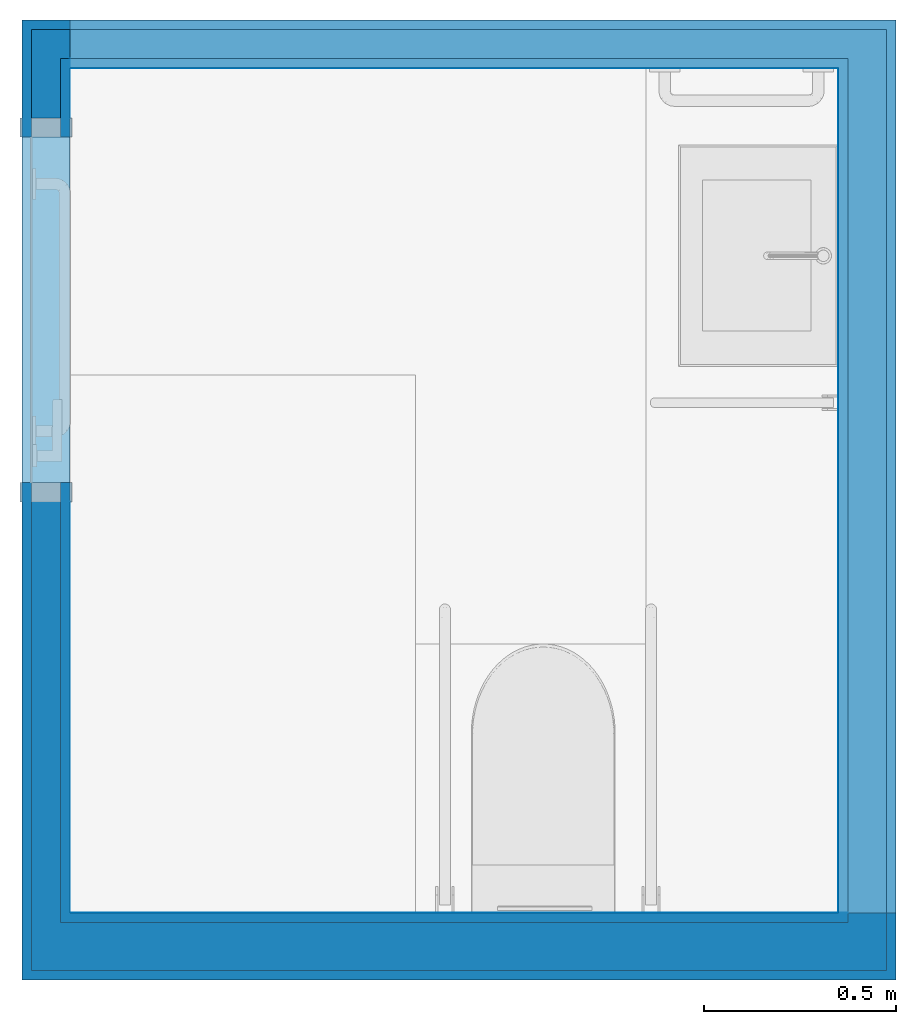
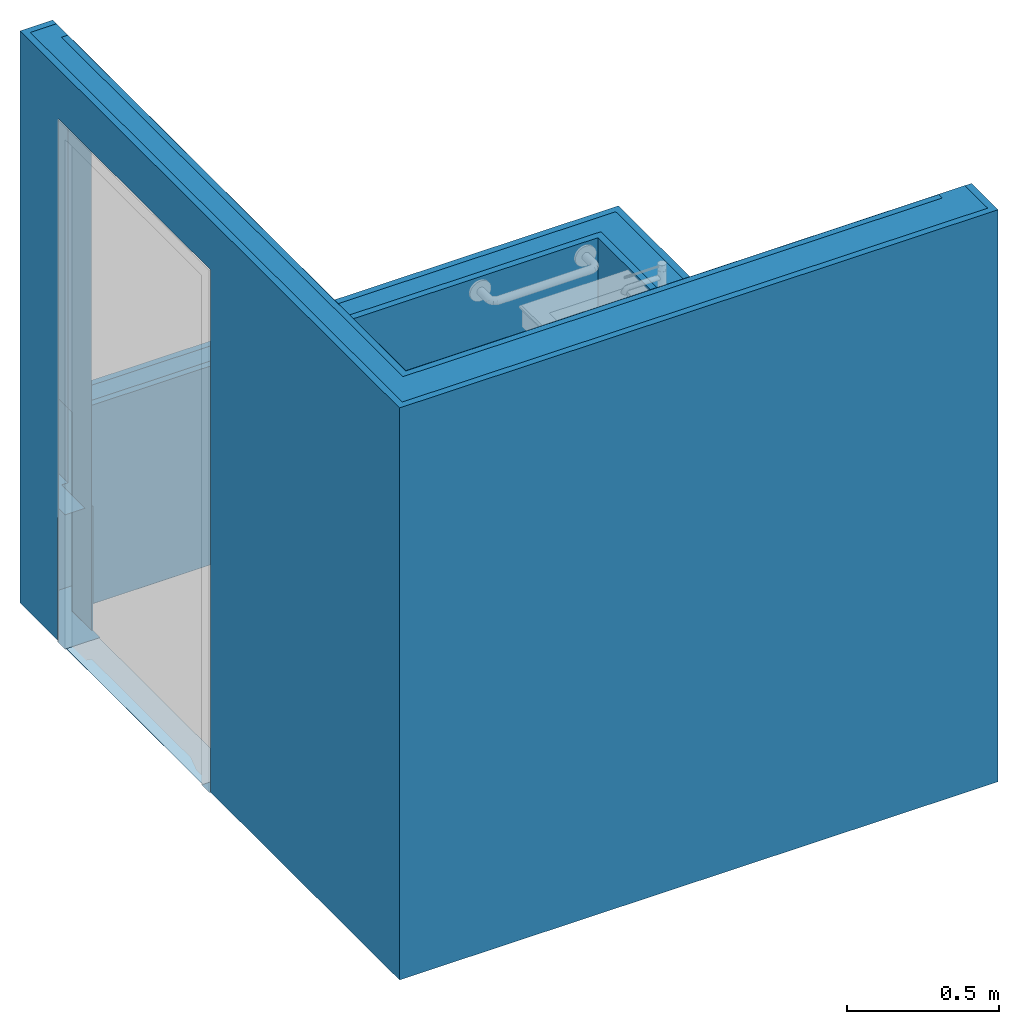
# One storey, part 2 of 4: 5 walls, 1 slab.
"""IFC2X3 building model written with IfcOpenShell, lengths in millimetres."""

from ifc_helpers import new_model, si_unit, frame, origin_with_axes, place, context, subcontext, project, spatial, faceted_brep, material, type_object, element, save


model = new_model("IFC2X3")

# Units and contexts
model_context = context("Model", 3, world=origin_with_axes())
body_context = subcontext(model_context, "Body", "Model", "MODEL_VIEW")
ifc_project = project(units=[si_unit("LENGTHUNIT", "METRE", prefix="MILLI"), si_unit("AREAUNIT", "SQUARE_METRE"), si_unit("VOLUMEUNIT", "CUBIC_METRE")], contexts=[model_context])

# Site, building, storey
site_placement = place(None, origin_with_axes())
site = spatial("IfcSite", under=ifc_project, at=site_placement, Name="Default Site", CompositionType="ELEMENT")
building_placement = place(site_placement, frame((2276.0499999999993, -7.219114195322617e-13, 0.0), z_axis=(0.0, 0.0, 1.0), x_axis=(2.9143354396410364e-16, 1.0, 0.0)))
building = spatial("IfcBuilding", under=site, at=building_placement, Name="Default Building", CompositionType="ELEMENT")
storey_placement = place(building_placement, origin_with_axes())
storey = spatial("IfcBuildingStorey", under=building, at=storey_placement, Name="Default Building Storey", CompositionType="ELEMENT", Elevation=0.0)

# Slab
ifc_material_1 = material(Name="Marble_01_1K")
slab_type = type_object("IfcSlabType", Name="Grupuj#11", PredefinedType="FLOOR")
slab_placement = place(storey_placement, frame((1295.070000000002, 2151.0499999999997, 1.0000000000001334), z_axis=(0.0, 0.0, 1.0), x_axis=(1.0, 0.0, 0.0)))
element("IfcSlab", 1, at=slab_placement, inside=storey, type_object=slab_type, material=ifc_material_1, Name="Podłoga", context=body_context, shape_type="Brep", body=[
    faceted_brep([(900.0000000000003, 125.00000000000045, 0.0), (0.0, 125.00000000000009, 0.0), (0.0, 0.0, 0.0), (279.9300000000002, 0.0, 0.0), (900.0000000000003, 3.6095570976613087e-13, 0.0)], [[[0, 1, 2, 3, 4]]]),
])

# Walls
ifc_material_2 = material(Name="J05_Violet_Prism1")
wall_type_1 = type_object("IfcWallType", Name="Ściany", PredefinedType="NOTDEFINED")
wall_1_placement = place(storey_placement, origin_with_axes())
element("IfcWall", 2, at=wall_1_placement, inside=storey, type_object=wall_type_1, material=ifc_material_2, Name="Ściany", context=body_context, shape_type="Brep", body=[
    faceted_brep([(1295.0700000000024, 2151.0499999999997, 2.1476706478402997e-18), (1295.0700000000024, 2151.05, 0.5091227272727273), (1295.0700000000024, 2151.0499999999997, 1.0000000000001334), (1295.0700000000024, 2146.0499999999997, 1.0000000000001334), (1295.0700000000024, 2146.0499999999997, 4.295341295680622e-18), (2400.0, 2176.0499999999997, 500.0), (2245.07, 2176.0499999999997, 500.0), (2245.07, 2251.0499999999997, 500.0), (2475.0, 2251.0499999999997, 500.0), (2475.0, 2176.0499999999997, 500.0), (2400.0, 2151.05, 500.0), (2475.0, 2151.05, 500.0), (1245.0700000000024, 2151.0499999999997, 2.1476706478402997e-18), (1245.0700000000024, 2146.0499999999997, 4.295341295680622e-18), (1575.0000000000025, 2151.0499999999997, 1.0000000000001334), (1575.0000000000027, 2151.05, 0.6363636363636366), (2195.07, 2151.05, 0.9182136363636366), (2195.07, 2151.05, 1.0000000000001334), (2245.07, 2276.05, 500.0), (2245.07, 2276.05, 2.1476706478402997e-18), (2245.07, 2281.0500000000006, 0.0), (2245.07, 2281.0500000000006, 500.0), (2475.0, 2151.05, 800.0), (2400.0, 2151.05, 800.0), (1245.0700000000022, 2151.0499999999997, 0.4863954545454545), (2195.07, 2151.05, 2.1476706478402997e-18), (2245.07, 2151.05, 2.1476706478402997e-18), (2245.07, 2146.05, 4.295341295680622e-18), (2195.07, 2146.05, 4.295341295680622e-18), (2195.07, 2276.05, 2.1476706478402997e-18), (2195.07, 2276.05, 1.0000000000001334), (2195.07, 2281.0500000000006, 1.0000000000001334), (2195.07, 2281.0500000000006, 0.0), (2245.07, 2151.05, 0.9409409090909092), (2500.0, 2276.05, 2.1476706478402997e-18), (2500.0, 0.0, 2.1476706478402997e-18), (0.0, 0.0, 2.1476706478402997e-18), (3.0055600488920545e-29, 2276.05, 2.1476706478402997e-18), (1245.07, 2276.05, 2.1476706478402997e-18), (1295.07, 2276.05, 2.1476706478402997e-18), (2374.9999999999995, 651.0500000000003, 2.1476706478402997e-18), (2374.9999999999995, 2151.05, 2.1476706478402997e-18), (1575.0000000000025, 2151.0499999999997, 2.1476706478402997e-18), (875.000000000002, 2151.05, 2.1476706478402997e-18), (175.0000000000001, 2151.0499999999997, 2.1476706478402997e-18), (175.00000000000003, 1251.05, 2.1476706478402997e-18), (174.99999999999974, 891.0500000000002, 2.1476706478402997e-18), (175.00000000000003, 150.00000000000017, 2.1476706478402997e-18), (2374.9999999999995, 149.99999999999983, 2.1476706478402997e-18), (2374.9999999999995, 149.99999999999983, 0.9999999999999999), (2374.9999999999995, 2151.05, 0.9999999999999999), (2195.07, 2146.05, 1.0000000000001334), (1245.07, 2281.05, 0.0), (1295.07, 2281.05, 0.0), (1295.07, 2276.05, 1.0000000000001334), (1295.07, 2281.05, 1.0000000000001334), (2245.07, 2151.05, 500.0), (2245.07, 2146.05, 500.0)], [[[0, 1, 2, 3, 4]], [[5, 6, 7, 8, 9]], [[10, 5, 9, 11]], [[12, 0, 4, 13]], [[14, 15, 16, 17]], [[18, 19, 20, 21]], [[10, 11, 22, 23]], [[1, 24, 12, 0]], [[25, 26, 27, 28]], [[29, 30, 31, 32]], [[19, 29, 32, 20]], [[33, 16, 25, 26]], [[19, 34, 35, 36, 37, 38, 39, 29], [40, 41, 26, 25, 42, 0, 12, 43, 44, 45, 46, 47, 48]], [[48, 49, 50, 41, 40]], [[12, 24, 44, 43]], [[16, 25, 28, 51, 17]], [[39, 38, 52, 53]], [[41, 50, 33, 26]], [[54, 39, 53, 55]], [[2, 1, 15, 14]], [[25, 16, 15, 42]], [[29, 39, 54, 30]], [[42, 15, 1, 0]], [[26, 33, 56, 57, 27]]]),
])
ifc_material_3 = material(Name="Plaster_02_1K")
wall_type_2 = type_object("IfcWallType", Name="Grupuj#1", PredefinedType="NOTDEFINED")
wall_2_placement = place(storey_placement, origin_with_axes())
element("IfcWall", 3, at=wall_2_placement, inside=storey, type_object=wall_type_2, material=ifc_material_3, Name="Ściany", context=body_context, shape_type="Brep", body=[
    faceted_brep([(0.0, 2276.05, 0.0), (0.0, 1.127986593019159e-14, 0.0), (0.0, 1.127986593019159e-14, 2300.0), (0.0, 2276.05, 2300.0), (2500.0, 1.127986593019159e-14, 0.0), (2500.0, 1.127986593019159e-14, 800.0), (175.00000000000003, 0.0, 800.0), (175.00000000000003, 0.0, 2300.0), (2500.0000000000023, 2276.05, 2300.0), (2500.0, 2276.05, 0.0), (2245.07, 2276.05, 0.0), (2245.07, 2276.05, 500.0), (2245.07, 2276.05, 2099.999999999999), (2195.07, 2276.05, 2099.999999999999), (1295.07, 2276.05, 2100.0), (1245.07, 2276.05, 2100.0), (1245.07, 2276.05, 0.0), (2500.0000000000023, 2151.0499999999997, 2300.0), (2500.0000000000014, 2151.05, 800.0), (2475.0, 2151.05, 800.0), (2475.0, 25.00000000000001, 800.0), (175.00000000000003, 25.000000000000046, 800.0), (175.00000000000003, 25.000000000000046, 2300.0)], [[[0, 1, 2, 3]], [[1, 4, 5, 6, 7, 2]], [[3, 8, 9, 10, 11, 12, 13, 14, 15, 16, 0]], [[9, 8, 17, 18, 5, 4]], [[5, 18, 19, 20, 21, 6]], [[7, 6, 21, 22]]]),
    faceted_brep([(2500.0000000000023, 2151.0499999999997, 2300.0), (2475.0, 2151.05, 2300.0), (2475.0, 2151.05, 800.0), (2500.0000000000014, 2151.05, 800.0), (1245.07, 2251.0499999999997, 2300.0), (2475.0, 2251.0499999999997, 2300.0), (2500.0000000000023, 2276.05, 2300.0), (0.0, 2276.05, 2300.0), (0.0, 1.127986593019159e-14, 2300.0), (175.00000000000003, 0.0, 2300.0), (175.00000000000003, 25.000000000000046, 2300.0), (25.0, 25.000000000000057, 2300.0), (24.999999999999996, 2251.0499999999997, 2300.0)], [[[0, 1, 2, 3]], [[4, 5, 1, 0, 6, 7, 8, 9, 10, 11, 12]]]),
])
ifc_material_4 = material(Name="M02_Ash_Whisper")
wall_type_3 = type_object("IfcWallType", Name="Grupuj#7", PredefinedType="NOTDEFINED")
wall_3_placement = place(storey_placement, frame((25.00000000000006, 25.00000000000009, 800.0), z_axis=(0.0, 0.0, 1.0), x_axis=(1.0, 0.0, 0.0)))
element("IfcWall", 4, at=wall_3_placement, inside=storey, type_object=wall_type_3, material=ifc_material_4, Name="Ściany", context=body_context, shape_type="Brep", body=[
    faceted_brep([(150.00000000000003, 3.3839597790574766e-14, 1500.0), (150.00000000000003, 3.3839597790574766e-14, 0.0), (150.00000000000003, 100.0, 0.0), (150.00000000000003, 100.0, 1500.0), (2449.9999999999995, 0.0, 0.0), (2449.9999999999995, 2126.05, 0.0), (2375.0, 2126.05, 0.0), (2375.0, 100.0, 0.0), (2375.0, 2126.05, 1500.0), (2449.9999999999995, 2126.05, 1500.0), (2449.9999999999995, 2226.0499999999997, 1500.0), (1220.07, 2226.0499999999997, 1500.0), (0.0, 2226.0499999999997, 1500.0), (2.8199664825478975e-15, 4.511946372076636e-14, 1500.0), (125.00000000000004, 100.0, 1500.0), (125.00000000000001, 2151.0499999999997, 1500.0), (1220.07, 2151.0499999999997, 1500.0), (2375.0, 2151.0499999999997, 1500.0)], [[[0, 1, 2, 3]], [[4, 5, 6, 7, 2, 1]], [[8, 9, 10, 11, 12, 13, 0, 3, 14, 15, 16, 17]]]),
    faceted_brep([(2449.9999999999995, 2126.05, 0.0), (2449.9999999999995, 2126.05, 1500.0), (2375.0, 2126.05, 1500.0), (2375.0, 2126.05, 0.0)], [[[0, 1, 2, 3]]]),
])
wall_type_4 = type_object("IfcWallType", Name="Grupuj#8", PredefinedType="NOTDEFINED")
wall_4_placement = place(storey_placement, frame((175.00000000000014, 125.00000000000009, 0.0), z_axis=(0.0, 0.0, 1.0), x_axis=(1.0, 0.0, 0.0)))
element("IfcWall", 5, at=wall_4_placement, inside=storey, type_object=wall_type_4, material=ifc_material_1, Name="Płytki", context=body_context, shape_type="Brep", body=[
    faceted_brep([(2200.0000000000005, 2026.0500000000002, 800.0), (2200.0000000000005, 2026.0500000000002, 0.9999999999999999), (2200.0000000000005, 25.00000000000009, 0.9999999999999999), (2200.0000000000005, 25.00000000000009, 800.0), (2200.0000000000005, 25.00000000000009, 0.0), (-4.511946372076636e-14, 25.00000000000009, 0.0), (-4.511946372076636e-14, 25.00000000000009, 800.0), (0.0, 0.0, 2300.0), (0.0, 0.0, 800.0), (2.255973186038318e-14, 766.0500000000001, 0.0), (0.0, 1126.0499999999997, 0.0), (0.0, 2026.0499999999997, 0.0), (0.0, 2026.0499999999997, 2300.0), (2070.0700000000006, 2026.0500000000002, 500.0), (2070.0700000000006, 2026.0500000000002, 0.9409409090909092), (2225.000000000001, 2026.0500000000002, 800.0), (2225.000000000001, 2026.0500000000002, 2300.0), (1070.0699999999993, 2026.0499999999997, 0.4863954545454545), (1070.0699999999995, 2026.0499999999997, 2100.0), (1120.0699999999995, 2026.0499999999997, 2100.0), (2020.070000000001, 2026.0500000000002, 2099.999999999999), (2070.0700000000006, 2026.0500000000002, 2099.999999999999)], [[[0, 1, 2, 3]], [[4, 5, 6, 3, 2]], [[7, 8, 6, 5, 9, 10, 11, 12]], [[13, 14, 1, 0, 15, 16, 12, 11, 17, 18, 19, 20, 21]]]),
])
ifc_material_5 = material(Name="Undefined7")
wall_type_5 = type_object("IfcWallType", Name="Grupuj#9", PredefinedType="NOTDEFINED")
wall_5_placement = place(storey_placement, frame((150.0000000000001, 125.00000000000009, 800.0), z_axis=(0.0, 0.0, 1.0), x_axis=(1.0, 0.0, 0.0)))
element("IfcWall", 6, at=wall_5_placement, inside=storey, type_object=wall_type_5, material=ifc_material_5, Name="Ściany", context=body_context, shape_type="Brep", body=[
    faceted_brep([(25.00000000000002, 2026.0499999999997, 1500.0), (2249.9999999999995, 2026.0500000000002, 1500.0), (2249.9999999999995, 2051.0499999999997, 1500.0), (1095.07, 2051.0499999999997, 1500.0), (0.0, 2051.0499999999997, 1500.0), (2.255973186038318e-14, 0.0, 1500.0), (25.00000000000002, 0.0, 1500.0)], [[[0, 1, 2, 3, 4, 5, 6]]]),
    faceted_brep([(2249.9999999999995, 0.0, 0.0), (2249.9999999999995, 2026.0500000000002, 0.0), (2224.999999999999, 2026.0500000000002, 0.0), (2224.999999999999, 25.0, 0.0), (25.00000000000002, 25.0, 0.0), (25.00000000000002, 0.0, 0.0)], [[[0, 1, 2, 3, 4, 5]]]),
])

save(model, "model.ifc")
